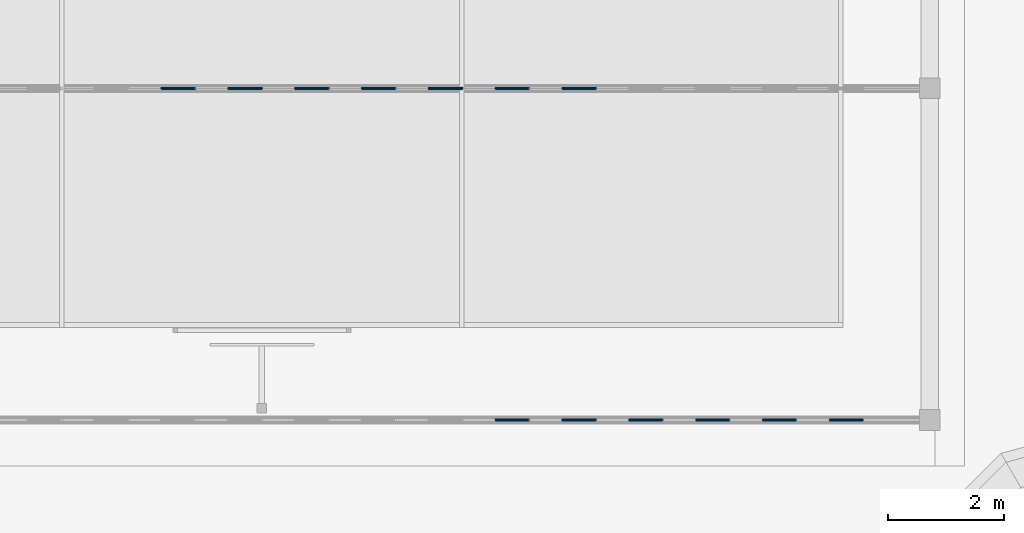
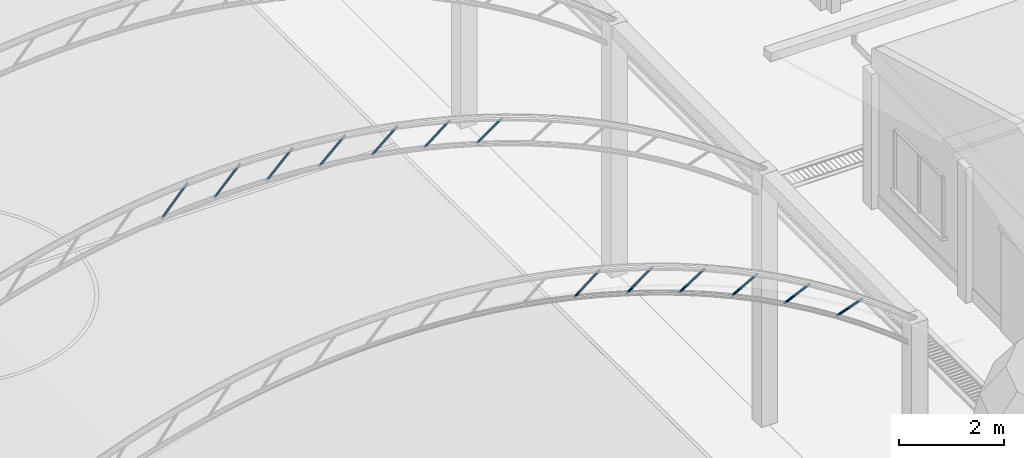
# One storey, part 25 of 166: 13 beams.
"""IFC2X3 building model written with IfcOpenShell, lengths in metres."""

from ifc_helpers import new_model, si_unit, origin, origin_with_axes, place, context, subcontext, project, spatial, faceted_brep, element, save


model = new_model("IFC2X3")

# Units and contexts
model_context = context("Model", 3, precision=1e-05, world=origin_with_axes())
body_context = subcontext(model_context, "Body", "Model", "MODEL_VIEW")
ifc_project = project(units=[si_unit("LENGTHUNIT", "METRE"), si_unit("AREAUNIT", "SQUARE_METRE"), si_unit("VOLUMEUNIT", "CUBIC_METRE"), si_unit("PLANEANGLEUNIT", "RADIAN")], contexts=[model_context])

# Site, building, storey
site_placement = place(None, origin_with_axes())
site = spatial("IfcSite", under=ifc_project, at=site_placement, Name="Predio Los Mangos - Morales, San Martín", CompositionType="ELEMENT")
building_placement = place(site_placement, origin())
building = spatial("IfcBuilding", under=site, at=building_placement, Name="Hogar de Refugio Temporal", CompositionType="ELEMENT")
storey_placement = place(building_placement, origin())
storey = spatial("IfcBuildingStorey", under=building, at=storey_placement, Name="NIVEL 1 (NPT +0.00)", CompositionType="ELEMENT", Elevation=0.0)

# Beams
beam_1_placement = place(storey_placement, origin())
element("IfcBeam", 1, at=beam_1_placement, inside=storey, Name="diag", ObjectType="Viga", context=body_context, shape_type="Brep", body=[
    faceted_brep([(19.0847, 92.6217, 9.0995), (19.6622, 92.6217, 9.5562), (19.67, 92.625, 9.5463), (19.0925, 92.625, 9.0897), (19.0791, 92.6125, 9.1067), (19.6566, 92.6125, 9.5633), (19.077, 92.6, 9.1093), (19.6545, 92.6, 9.566), (19.0791, 92.5875, 9.1067), (19.6566, 92.5875, 9.5633), (19.0847, 92.5783, 9.0995), (19.6622, 92.5783, 9.5562), (19.0925, 92.575, 9.0897), (19.67, 92.575, 9.5463), (19.1003, 92.5783, 9.0799), (19.6778, 92.5783, 9.5365), (19.1059, 92.5875, 9.0727), (19.6834, 92.5875, 9.5294), (19.108, 92.6, 9.0701), (19.6855, 92.6, 9.5267), (19.1059, 92.6125, 9.0727), (19.6834, 92.6125, 9.5294), (19.1003, 92.6217, 9.0799), (19.6778, 92.6217, 9.5365), (19.0912, 92.6037, 9.0914), (19.0925, 92.6043, 9.0897), (19.67, 92.6043, 9.5463), (19.6687, 92.6037, 9.548), (19.0902, 92.6021, 9.0926), (19.6677, 92.6021, 9.5493), (19.0898, 92.6, 9.0931), (19.6673, 92.6, 9.5497), (19.0902, 92.5979, 9.0926), (19.6677, 92.5979, 9.5493), (19.0912, 92.5963, 9.0914), (19.6687, 92.5963, 9.548), (19.0925, 92.5957, 9.0897), (19.67, 92.5957, 9.5463), (19.0938, 92.5963, 9.088), (19.6713, 92.5963, 9.5447), (19.0948, 92.5979, 9.0868), (19.6723, 92.5979, 9.5434), (19.0952, 92.6, 9.0863), (19.6727, 92.6, 9.543), (19.0948, 92.6021, 9.0868), (19.6723, 92.6021, 9.5434), (19.0938, 92.6037, 9.088), (19.6713, 92.6037, 9.5447)], [[[0, 1, 2, 3]], [[4, 5, 1, 0]], [[6, 7, 5, 4]], [[8, 9, 7, 6]], [[10, 11, 9, 8]], [[12, 13, 11, 10]], [[14, 15, 13, 12]], [[16, 17, 15, 14]], [[18, 19, 17, 16]], [[20, 21, 19, 18]], [[22, 23, 21, 20]], [[3, 2, 23, 22]], [[24, 25, 26, 27]], [[28, 24, 27, 29]], [[30, 28, 29, 31]], [[32, 30, 31, 33]], [[34, 32, 33, 35]], [[36, 34, 35, 37]], [[38, 36, 37, 39]], [[40, 38, 39, 41]], [[42, 40, 41, 43]], [[44, 42, 43, 45]], [[46, 44, 45, 47]], [[25, 46, 47, 26]], [[15, 17, 41, 39]], [[2, 1, 27, 26]], [[8, 6, 30, 32]], [[18, 16, 40, 42]], [[11, 13, 37, 35]], [[21, 23, 47, 45]], [[4, 0, 24, 28]], [[14, 12, 36, 38]], [[3, 22, 46, 25]], [[7, 9, 33, 31]], [[17, 19, 43, 41]], [[23, 2, 26, 47]], [[10, 8, 32, 34]], [[20, 18, 42, 44]], [[1, 5, 29, 27]], [[13, 15, 39, 37]], [[6, 4, 28, 30]], [[16, 14, 38, 40]], [[0, 3, 25, 24]], [[9, 11, 35, 33]], [[19, 21, 45, 43]], [[12, 10, 34, 36]], [[22, 20, 44, 46]], [[5, 7, 31, 29]]]),
])
beam_2_placement = place(storey_placement, origin())
element("IfcBeam", 2, at=beam_2_placement, inside=storey, Name="diag", ObjectType="Viga", context=body_context, shape_type="Brep", body=[
    faceted_brep([(20.2402, 92.6217, 8.7926), (20.8177, 92.6217, 9.2075), (20.825, 92.625, 9.1974), (20.2475, 92.625, 8.7824), (20.2349, 92.6125, 8.8), (20.8124, 92.6125, 9.215), (20.2329, 92.6, 8.8027), (20.8104, 92.6, 9.2177), (20.2349, 92.5875, 8.8), (20.8124, 92.5875, 9.215), (20.2402, 92.5783, 8.7926), (20.8177, 92.5783, 9.2075), (20.2475, 92.575, 8.7824), (20.825, 92.575, 9.1974), (20.2548, 92.5783, 8.7723), (20.8323, 92.5783, 9.1872), (20.2601, 92.5875, 8.7649), (20.8376, 92.5875, 9.1798), (20.2621, 92.6, 8.7621), (20.8396, 92.6, 9.1771), (20.2601, 92.6125, 8.7649), (20.8376, 92.6125, 9.1798), (20.2548, 92.6217, 8.7723), (20.8323, 92.6217, 9.1872), (20.2462, 92.6037, 8.7842), (20.2475, 92.6043, 8.7824), (20.825, 92.6043, 9.1974), (20.8237, 92.6037, 9.1991), (20.2453, 92.6021, 8.7855), (20.8228, 92.6021, 9.2004), (20.245, 92.6, 8.7859), (20.8225, 92.6, 9.2009), (20.2453, 92.5979, 8.7855), (20.8228, 92.5979, 9.2004), (20.2462, 92.5963, 8.7842), (20.8237, 92.5963, 9.1991), (20.2475, 92.5957, 8.7824), (20.825, 92.5957, 9.1974), (20.2488, 92.5963, 8.7807), (20.8263, 92.5963, 9.1957), (20.2497, 92.5979, 8.7794), (20.8272, 92.5979, 9.1944), (20.25, 92.6, 8.779), (20.8275, 92.6, 9.1939), (20.2497, 92.6021, 8.7794), (20.8272, 92.6021, 9.1944), (20.2488, 92.6037, 8.7807), (20.8263, 92.6037, 9.1957)], [[[0, 1, 2, 3]], [[4, 5, 1, 0]], [[6, 7, 5, 4]], [[8, 9, 7, 6]], [[10, 11, 9, 8]], [[12, 13, 11, 10]], [[14, 15, 13, 12]], [[16, 17, 15, 14]], [[18, 19, 17, 16]], [[20, 21, 19, 18]], [[22, 23, 21, 20]], [[3, 2, 23, 22]], [[24, 25, 26, 27]], [[28, 24, 27, 29]], [[30, 28, 29, 31]], [[32, 30, 31, 33]], [[34, 32, 33, 35]], [[36, 34, 35, 37]], [[38, 36, 37, 39]], [[40, 38, 39, 41]], [[42, 40, 41, 43]], [[44, 42, 43, 45]], [[46, 44, 45, 47]], [[25, 46, 47, 26]], [[15, 17, 41, 39]], [[2, 1, 27, 26]], [[8, 6, 30, 32]], [[18, 16, 40, 42]], [[11, 13, 37, 35]], [[21, 23, 47, 45]], [[4, 0, 24, 28]], [[14, 12, 36, 38]], [[3, 22, 46, 25]], [[7, 9, 33, 31]], [[17, 19, 43, 41]], [[23, 2, 26, 47]], [[10, 8, 32, 34]], [[20, 18, 42, 44]], [[1, 5, 29, 27]], [[13, 15, 39, 37]], [[6, 4, 28, 30]], [[16, 14, 38, 40]], [[0, 3, 25, 24]], [[9, 11, 35, 33]], [[19, 21, 45, 43]], [[12, 10, 34, 36]], [[22, 20, 44, 46]], [[5, 7, 31, 29]]]),
])
beam_3_placement = place(storey_placement, origin())
element("IfcBeam", 3, at=beam_3_placement, inside=storey, Name="diag", ObjectType="Viga", context=body_context, shape_type="Brep", body=[
    faceted_brep([(21.3958, 92.6217, 8.401), (21.9733, 92.6217, 8.7715), (21.98, 92.625, 8.7609), (21.4025, 92.625, 8.3905), (21.3908, 92.6125, 8.4087), (21.9683, 92.6125, 8.7792), (21.389, 92.6, 8.4115), (21.9665, 92.6, 8.782), (21.3908, 92.5875, 8.4087), (21.9683, 92.5875, 8.7792), (21.3958, 92.5783, 8.401), (21.9733, 92.5783, 8.7715), (21.4025, 92.575, 8.3905), (21.98, 92.575, 8.7609), (21.4092, 92.5783, 8.38), (21.9867, 92.5783, 8.7504), (21.4142, 92.5875, 8.3723), (21.9917, 92.5875, 8.7427), (21.416, 92.6, 8.3695), (21.9935, 92.6, 8.7399), (21.4142, 92.6125, 8.3723), (21.9917, 92.6125, 8.7427), (21.4092, 92.6217, 8.38), (21.9867, 92.6217, 8.7504), (21.4013, 92.6037, 8.3923), (21.4025, 92.6043, 8.3905), (21.98, 92.6043, 8.7609), (21.9788, 92.6037, 8.7627), (21.4005, 92.6021, 8.3936), (21.978, 92.6021, 8.7641), (21.4002, 92.6, 8.3941), (21.9777, 92.6, 8.7645), (21.4005, 92.5979, 8.3936), (21.978, 92.5979, 8.7641), (21.4013, 92.5963, 8.3923), (21.9788, 92.5963, 8.7627), (21.4025, 92.5957, 8.3905), (21.98, 92.5957, 8.7609), (21.4037, 92.5963, 8.3887), (21.9812, 92.5963, 8.7591), (21.4045, 92.5979, 8.3874), (21.982, 92.5979, 8.7578), (21.4048, 92.6, 8.3869), (21.9823, 92.6, 8.7573), (21.4045, 92.6021, 8.3874), (21.982, 92.6021, 8.7578), (21.4037, 92.6037, 8.3887), (21.9812, 92.6037, 8.7591)], [[[0, 1, 2, 3]], [[4, 5, 1, 0]], [[6, 7, 5, 4]], [[8, 9, 7, 6]], [[10, 11, 9, 8]], [[12, 13, 11, 10]], [[14, 15, 13, 12]], [[16, 17, 15, 14]], [[18, 19, 17, 16]], [[20, 21, 19, 18]], [[22, 23, 21, 20]], [[3, 2, 23, 22]], [[24, 25, 26, 27]], [[28, 24, 27, 29]], [[30, 28, 29, 31]], [[32, 30, 31, 33]], [[34, 32, 33, 35]], [[36, 34, 35, 37]], [[38, 36, 37, 39]], [[40, 38, 39, 41]], [[42, 40, 41, 43]], [[44, 42, 43, 45]], [[46, 44, 45, 47]], [[25, 46, 47, 26]], [[15, 17, 41, 39]], [[2, 1, 27, 26]], [[8, 6, 30, 32]], [[18, 16, 40, 42]], [[11, 13, 37, 35]], [[21, 23, 47, 45]], [[4, 0, 24, 28]], [[14, 12, 36, 38]], [[3, 22, 46, 25]], [[7, 9, 33, 31]], [[17, 19, 43, 41]], [[23, 2, 26, 47]], [[10, 8, 32, 34]], [[20, 18, 42, 44]], [[1, 5, 29, 27]], [[13, 15, 39, 37]], [[6, 4, 28, 30]], [[16, 14, 38, 40]], [[0, 3, 25, 24]], [[9, 11, 35, 33]], [[19, 21, 45, 43]], [[12, 10, 34, 36]], [[22, 20, 44, 46]], [[5, 7, 31, 29]]]),
])
beam_4_placement = place(storey_placement, origin())
element("IfcBeam", 4, at=beam_4_placement, inside=storey, Name="diag", ObjectType="Viga", context=body_context, shape_type="Brep", body=[
    faceted_brep([(22.5514, 92.6217, 7.9187), (23.1289, 92.6217, 8.2407), (23.135, 92.625, 8.2298), (22.5575, 92.625, 7.9077), (22.547, 92.6125, 7.9267), (23.1245, 92.6125, 8.2487), (22.5453, 92.6, 7.9296), (23.1228, 92.6, 8.2517), (22.547, 92.5875, 7.9267), (23.1245, 92.5875, 8.2487), (22.5514, 92.5783, 7.9187), (23.1289, 92.5783, 8.2407), (22.5575, 92.575, 7.9077), (23.135, 92.575, 8.2298), (22.5636, 92.5783, 7.8968), (23.1411, 92.5783, 8.2189), (22.568, 92.5875, 7.8888), (23.1455, 92.5875, 8.2109), (22.5697, 92.6, 7.8859), (23.1472, 92.6, 8.208), (22.568, 92.6125, 7.8888), (23.1455, 92.6125, 8.2109), (22.5636, 92.6217, 7.8968), (23.1411, 92.6217, 8.2189), (22.5565, 92.6037, 7.9096), (22.5575, 92.6043, 7.9077), (23.135, 92.6043, 8.2298), (23.134, 92.6037, 8.2317), (22.5557, 92.6021, 7.911), (23.1332, 92.6021, 8.2331), (22.5554, 92.6, 7.9115), (23.1329, 92.6, 8.2336), (22.5557, 92.5979, 7.911), (23.1332, 92.5979, 8.2331), (22.5565, 92.5963, 7.9096), (23.134, 92.5963, 8.2317), (22.5575, 92.5957, 7.9077), (23.135, 92.5957, 8.2298), (22.5585, 92.5963, 7.9059), (23.136, 92.5963, 8.228), (22.5593, 92.5979, 7.9045), (23.1368, 92.5979, 8.2266), (22.5596, 92.6, 7.904), (23.1371, 92.6, 8.2261), (22.5593, 92.6021, 7.9045), (23.1368, 92.6021, 8.2266), (22.5585, 92.6037, 7.9059), (23.136, 92.6037, 8.228)], [[[0, 1, 2, 3]], [[4, 5, 1, 0]], [[6, 7, 5, 4]], [[8, 9, 7, 6]], [[10, 11, 9, 8]], [[12, 13, 11, 10]], [[14, 15, 13, 12]], [[16, 17, 15, 14]], [[18, 19, 17, 16]], [[20, 21, 19, 18]], [[22, 23, 21, 20]], [[3, 2, 23, 22]], [[24, 25, 26, 27]], [[28, 24, 27, 29]], [[30, 28, 29, 31]], [[32, 30, 31, 33]], [[34, 32, 33, 35]], [[36, 34, 35, 37]], [[38, 36, 37, 39]], [[40, 38, 39, 41]], [[42, 40, 41, 43]], [[44, 42, 43, 45]], [[46, 44, 45, 47]], [[25, 46, 47, 26]], [[15, 17, 41, 39]], [[2, 1, 27, 26]], [[8, 6, 30, 32]], [[18, 16, 40, 42]], [[11, 13, 37, 35]], [[21, 23, 47, 45]], [[4, 0, 24, 28]], [[14, 12, 36, 38]], [[3, 22, 46, 25]], [[7, 9, 33, 31]], [[17, 19, 43, 41]], [[23, 2, 26, 47]], [[10, 8, 32, 34]], [[20, 18, 42, 44]], [[1, 5, 29, 27]], [[13, 15, 39, 37]], [[6, 4, 28, 30]], [[16, 14, 38, 40]], [[0, 3, 25, 24]], [[9, 11, 35, 33]], [[19, 21, 45, 43]], [[12, 10, 34, 36]], [[22, 20, 44, 46]], [[5, 7, 31, 29]]]),
])
beam_5_placement = place(storey_placement, origin())
element("IfcBeam", 5, at=beam_5_placement, inside=storey, Name="diag", ObjectType="Viga", context=body_context, shape_type="Brep", body=[
    faceted_brep([(23.7072, 92.6217, 7.3372), (24.2847, 92.6217, 7.6056), (24.29, 92.625, 7.5943), (23.7125, 92.625, 7.3259), (23.7034, 92.6125, 7.3455), (24.2809, 92.6125, 7.6139), (23.702, 92.6, 7.3485), (24.2795, 92.6, 7.617), (23.7034, 92.5875, 7.3455), (24.2809, 92.5875, 7.6139), (23.7072, 92.5783, 7.3372), (24.2847, 92.5783, 7.6056), (23.7125, 92.575, 7.3259), (24.29, 92.575, 7.5943), (23.7178, 92.5783, 7.3145), (24.2953, 92.5783, 7.583), (23.7216, 92.5875, 7.3062), (24.2991, 92.5875, 7.5747), (23.723, 92.6, 7.3032), (24.3005, 92.6, 7.5716), (23.7216, 92.6125, 7.3062), (24.2991, 92.6125, 7.5747), (23.7178, 92.6217, 7.3145), (24.2953, 92.6217, 7.583), (23.7116, 92.6037, 7.3278), (23.7125, 92.6043, 7.3259), (24.29, 92.6043, 7.5943), (24.2891, 92.6037, 7.5963), (23.7109, 92.6021, 7.3292), (24.2884, 92.6021, 7.5977), (23.7107, 92.6, 7.3298), (24.2882, 92.6, 7.5982), (23.7109, 92.5979, 7.3292), (24.2884, 92.5979, 7.5977), (23.7116, 92.5963, 7.3278), (24.2891, 92.5963, 7.5963), (23.7125, 92.5957, 7.3259), (24.29, 92.5957, 7.5943), (23.7134, 92.5963, 7.3239), (24.2909, 92.5963, 7.5924), (23.7141, 92.5979, 7.3225), (24.2916, 92.5979, 7.5909), (23.7143, 92.6, 7.322), (24.2918, 92.6, 7.5904), (23.7141, 92.6021, 7.3225), (24.2916, 92.6021, 7.5909), (23.7134, 92.6037, 7.3239), (24.2909, 92.6037, 7.5924)], [[[0, 1, 2, 3]], [[4, 5, 1, 0]], [[6, 7, 5, 4]], [[8, 9, 7, 6]], [[10, 11, 9, 8]], [[12, 13, 11, 10]], [[14, 15, 13, 12]], [[16, 17, 15, 14]], [[18, 19, 17, 16]], [[20, 21, 19, 18]], [[22, 23, 21, 20]], [[3, 2, 23, 22]], [[24, 25, 26, 27]], [[28, 24, 27, 29]], [[30, 28, 29, 31]], [[32, 30, 31, 33]], [[34, 32, 33, 35]], [[36, 34, 35, 37]], [[38, 36, 37, 39]], [[40, 38, 39, 41]], [[42, 40, 41, 43]], [[44, 42, 43, 45]], [[46, 44, 45, 47]], [[25, 46, 47, 26]], [[15, 17, 41, 39]], [[2, 1, 27, 26]], [[8, 6, 30, 32]], [[18, 16, 40, 42]], [[11, 13, 37, 35]], [[21, 23, 47, 45]], [[4, 0, 24, 28]], [[14, 12, 36, 38]], [[3, 22, 46, 25]], [[7, 9, 33, 31]], [[17, 19, 43, 41]], [[23, 2, 26, 47]], [[10, 8, 32, 34]], [[20, 18, 42, 44]], [[1, 5, 29, 27]], [[13, 15, 39, 37]], [[6, 4, 28, 30]], [[16, 14, 38, 40]], [[0, 3, 25, 24]], [[9, 11, 35, 33]], [[19, 21, 45, 43]], [[12, 10, 34, 36]], [[22, 20, 44, 46]], [[5, 7, 31, 29]]]),
])
beam_6_placement = place(storey_placement, origin())
element("IfcBeam", 6, at=beam_6_placement, inside=storey, Name="diag", ObjectType="Viga", context=body_context, shape_type="Brep", body=[
    faceted_brep([(24.8633, 92.6217, 6.6451), (25.4408, 92.6217, 6.8526), (25.445, 92.625, 6.8408), (24.8675, 92.625, 6.6333), (24.8602, 92.6125, 6.6537), (25.4377, 92.6125, 6.8612), (24.859, 92.6, 6.6569), (25.4365, 92.6, 6.8643), (24.8602, 92.5875, 6.6537), (25.4377, 92.5875, 6.8612), (24.8633, 92.5783, 6.6451), (25.4408, 92.5783, 6.8526), (24.8675, 92.575, 6.6333), (25.445, 92.575, 6.8408), (24.8717, 92.5783, 6.6216), (25.4492, 92.5783, 6.829), (24.8748, 92.5875, 6.613), (25.4523, 92.5875, 6.8204), (24.876, 92.6, 6.6098), (25.4535, 92.6, 6.8173), (24.8748, 92.6125, 6.613), (25.4523, 92.6125, 6.8204), (24.8717, 92.6217, 6.6216), (25.4492, 92.6217, 6.829), (24.8668, 92.6037, 6.6354), (24.8675, 92.6043, 6.6333), (25.445, 92.6043, 6.8408), (25.4443, 92.6037, 6.8428), (24.8662, 92.6021, 6.6368), (25.4437, 92.6021, 6.8443), (24.866, 92.6, 6.6374), (25.4435, 92.6, 6.8449), (24.8662, 92.5979, 6.6368), (25.4437, 92.5979, 6.8443), (24.8668, 92.5963, 6.6354), (25.4443, 92.5963, 6.8428), (24.8675, 92.5957, 6.6333), (25.445, 92.5957, 6.8408), (24.8682, 92.5963, 6.6313), (25.4457, 92.5963, 6.8388), (24.8688, 92.5979, 6.6298), (25.4463, 92.5979, 6.8373), (24.869, 92.6, 6.6293), (25.4465, 92.6, 6.8368), (24.8688, 92.6021, 6.6298), (25.4463, 92.6021, 6.8373), (24.8682, 92.6037, 6.6313), (25.4457, 92.6037, 6.8388)], [[[0, 1, 2, 3]], [[4, 5, 1, 0]], [[6, 7, 5, 4]], [[8, 9, 7, 6]], [[10, 11, 9, 8]], [[12, 13, 11, 10]], [[14, 15, 13, 12]], [[16, 17, 15, 14]], [[18, 19, 17, 16]], [[20, 21, 19, 18]], [[22, 23, 21, 20]], [[3, 2, 23, 22]], [[24, 25, 26, 27]], [[28, 24, 27, 29]], [[30, 28, 29, 31]], [[32, 30, 31, 33]], [[34, 32, 33, 35]], [[36, 34, 35, 37]], [[38, 36, 37, 39]], [[40, 38, 39, 41]], [[42, 40, 41, 43]], [[44, 42, 43, 45]], [[46, 44, 45, 47]], [[25, 46, 47, 26]], [[15, 17, 41, 39]], [[2, 1, 27, 26]], [[8, 6, 30, 32]], [[18, 16, 40, 42]], [[11, 13, 37, 35]], [[21, 23, 47, 45]], [[4, 0, 24, 28]], [[14, 12, 36, 38]], [[3, 22, 46, 25]], [[7, 9, 33, 31]], [[17, 19, 43, 41]], [[23, 2, 26, 47]], [[10, 8, 32, 34]], [[20, 18, 42, 44]], [[1, 5, 29, 27]], [[13, 15, 39, 37]], [[6, 4, 28, 30]], [[16, 14, 38, 40]], [[0, 3, 25, 24]], [[9, 11, 35, 33]], [[19, 21, 45, 43]], [[12, 10, 34, 36]], [[22, 20, 44, 46]], [[5, 7, 31, 29]]]),
])
beam_7_placement = place(storey_placement, origin())
element("IfcBeam", 7, at=beam_7_placement, inside=storey, Name="diag", ObjectType="Viga", context=body_context, shape_type="Brep", body=[
    faceted_brep([(13.3082, 98.355, 9.4747), (13.8857, 98.355, 10.1212), (13.895, 98.3583, 10.1129), (13.3175, 98.3583, 9.4663), (13.3014, 98.3458, 9.4808), (13.8789, 98.3458, 10.1273), (13.2989, 98.3333, 9.483), (13.8764, 98.3333, 10.1295), (13.3014, 98.3208, 9.4808), (13.8789, 98.3208, 10.1273), (13.3082, 98.3117, 9.4747), (13.8857, 98.3117, 10.1212), (13.3175, 98.3083, 9.4663), (13.895, 98.3083, 10.1129), (13.3268, 98.3117, 9.458), (13.9043, 98.3117, 10.1045), (13.3336, 98.3208, 9.4519), (13.9111, 98.3208, 10.0984), (13.3361, 98.3333, 9.4497), (13.9136, 98.3333, 10.0962), (13.3336, 98.3458, 9.4519), (13.9111, 98.3458, 10.0984), (13.3268, 98.355, 9.458), (13.9043, 98.355, 10.1045), (13.3159, 98.3371, 9.4678), (13.3175, 98.3376, 9.4663), (13.895, 98.3376, 10.1129), (13.8934, 98.3371, 10.1143), (13.3147, 98.3355, 9.4688), (13.8922, 98.3355, 10.1153), (13.3143, 98.3333, 9.4692), (13.8918, 98.3333, 10.1157), (13.3147, 98.3312, 9.4688), (13.8922, 98.3312, 10.1153), (13.3159, 98.3296, 9.4678), (13.8934, 98.3296, 10.1143), (13.3175, 98.329, 9.4663), (13.895, 98.329, 10.1129), (13.3191, 98.3296, 9.4649), (13.8966, 98.3296, 10.1114), (13.3203, 98.3312, 9.4639), (13.8978, 98.3312, 10.1104), (13.3207, 98.3333, 9.4635), (13.8982, 98.3333, 10.11), (13.3203, 98.3355, 9.4639), (13.8978, 98.3355, 10.1104), (13.3191, 98.3371, 9.4649), (13.8966, 98.3371, 10.1114)], [[[0, 1, 2, 3]], [[4, 5, 1, 0]], [[6, 7, 5, 4]], [[8, 9, 7, 6]], [[10, 11, 9, 8]], [[12, 13, 11, 10]], [[14, 15, 13, 12]], [[16, 17, 15, 14]], [[18, 19, 17, 16]], [[20, 21, 19, 18]], [[22, 23, 21, 20]], [[3, 2, 23, 22]], [[24, 25, 26, 27]], [[28, 24, 27, 29]], [[30, 28, 29, 31]], [[32, 30, 31, 33]], [[34, 32, 33, 35]], [[36, 34, 35, 37]], [[38, 36, 37, 39]], [[40, 38, 39, 41]], [[42, 40, 41, 43]], [[44, 42, 43, 45]], [[46, 44, 45, 47]], [[25, 46, 47, 26]], [[7, 9, 33, 31]], [[17, 19, 43, 41]], [[23, 2, 26, 47]], [[10, 8, 32, 34]], [[20, 18, 42, 44]], [[1, 5, 29, 27]], [[13, 15, 39, 37]], [[6, 4, 28, 30]], [[16, 14, 38, 40]], [[0, 3, 25, 24]], [[9, 11, 35, 33]], [[19, 21, 45, 43]], [[12, 10, 34, 36]], [[22, 20, 44, 46]], [[5, 7, 31, 29]], [[15, 17, 41, 39]], [[2, 1, 27, 26]], [[8, 6, 30, 32]], [[18, 16, 40, 42]], [[11, 13, 37, 35]], [[21, 23, 47, 45]], [[4, 0, 24, 28]], [[14, 12, 36, 38]], [[3, 22, 46, 25]]]),
])
beam_8_placement = place(storey_placement, origin())
element("IfcBeam", 8, at=beam_8_placement, inside=storey, Name="diag", ObjectType="Viga", context=body_context, shape_type="Brep", body=[
    faceted_brep([(14.4634, 98.355, 9.5493), (15.0409, 98.355, 10.1586), (15.05, 98.3583, 10.15), (14.4725, 98.3583, 9.5407), (14.4568, 98.3458, 9.5556), (15.0343, 98.3458, 10.1649), (14.4544, 98.3333, 9.5579), (15.0319, 98.3333, 10.1672), (14.4568, 98.3208, 9.5556), (15.0343, 98.3208, 10.1649), (14.4634, 98.3117, 9.5493), (15.0409, 98.3117, 10.1586), (14.4725, 98.3083, 9.5407), (15.05, 98.3083, 10.15), (14.4816, 98.3117, 9.5321), (15.0591, 98.3117, 10.1414), (14.4882, 98.3208, 9.5258), (15.0657, 98.3208, 10.1351), (14.4906, 98.3333, 9.5235), (15.0681, 98.3333, 10.1328), (14.4882, 98.3458, 9.5258), (15.0657, 98.3458, 10.1351), (14.4816, 98.355, 9.5321), (15.0591, 98.355, 10.1414), (14.4709, 98.3371, 9.5422), (14.4725, 98.3376, 9.5407), (15.05, 98.3376, 10.15), (15.0484, 98.3371, 10.1515), (14.4698, 98.3355, 9.5433), (15.0473, 98.3355, 10.1526), (14.4694, 98.3333, 9.5437), (15.0469, 98.3333, 10.153), (14.4698, 98.3312, 9.5433), (15.0473, 98.3312, 10.1526), (14.4709, 98.3296, 9.5422), (15.0484, 98.3296, 10.1515), (14.4725, 98.329, 9.5407), (15.05, 98.329, 10.15), (14.4741, 98.3296, 9.5392), (15.0516, 98.3296, 10.1485), (14.4752, 98.3312, 9.5382), (15.0527, 98.3312, 10.1474), (14.4756, 98.3333, 9.5378), (15.0531, 98.3333, 10.147), (14.4752, 98.3355, 9.5382), (15.0527, 98.3355, 10.1474), (14.4741, 98.3371, 9.5392), (15.0516, 98.3371, 10.1485)], [[[0, 1, 2, 3]], [[4, 5, 1, 0]], [[6, 7, 5, 4]], [[8, 9, 7, 6]], [[10, 11, 9, 8]], [[12, 13, 11, 10]], [[14, 15, 13, 12]], [[16, 17, 15, 14]], [[18, 19, 17, 16]], [[20, 21, 19, 18]], [[22, 23, 21, 20]], [[3, 2, 23, 22]], [[24, 25, 26, 27]], [[28, 24, 27, 29]], [[30, 28, 29, 31]], [[32, 30, 31, 33]], [[34, 32, 33, 35]], [[36, 34, 35, 37]], [[38, 36, 37, 39]], [[40, 38, 39, 41]], [[42, 40, 41, 43]], [[44, 42, 43, 45]], [[46, 44, 45, 47]], [[25, 46, 47, 26]], [[6, 4, 28, 30]], [[16, 14, 38, 40]], [[0, 3, 25, 24]], [[9, 11, 35, 33]], [[19, 21, 45, 43]], [[12, 10, 34, 36]], [[22, 20, 44, 46]], [[5, 7, 31, 29]], [[15, 17, 41, 39]], [[2, 1, 27, 26]], [[8, 6, 30, 32]], [[18, 16, 40, 42]], [[11, 13, 37, 35]], [[21, 23, 47, 45]], [[4, 0, 24, 28]], [[14, 12, 36, 38]], [[3, 22, 46, 25]], [[7, 9, 33, 31]], [[17, 19, 43, 41]], [[23, 2, 26, 47]], [[10, 8, 32, 34]], [[20, 18, 42, 44]], [[1, 5, 29, 27]], [[13, 15, 39, 37]]]),
])
beam_9_placement = place(storey_placement, origin())
element("IfcBeam", 9, at=beam_9_placement, inside=storey, Name="diag", ObjectType="Viga", context=body_context, shape_type="Brep", body=[
    faceted_brep([(15.6187, 98.355, 9.5496), (16.1962, 98.355, 10.1217), (16.205, 98.3583, 10.1129), (15.6275, 98.3583, 9.5407), (15.6123, 98.3458, 9.5561), (16.1898, 98.3458, 10.1282), (15.6099, 98.3333, 9.5585), (16.1874, 98.3333, 10.1306), (15.6123, 98.3208, 9.5561), (16.1898, 98.3208, 10.1282), (15.6187, 98.3117, 9.5496), (16.1962, 98.3117, 10.1217), (15.6275, 98.3083, 9.5407), (16.205, 98.3083, 10.1129), (15.6363, 98.3117, 9.5318), (16.2138, 98.3117, 10.104), (15.6427, 98.3208, 9.5253), (16.2202, 98.3208, 10.0975), (15.6451, 98.3333, 9.523), (16.2226, 98.3333, 10.0951), (15.6427, 98.3458, 9.5253), (16.2202, 98.3458, 10.0975), (15.6363, 98.355, 9.5318), (16.2138, 98.355, 10.104), (15.626, 98.3371, 9.5422), (15.6275, 98.3376, 9.5407), (16.205, 98.3376, 10.1129), (16.2035, 98.3371, 10.1144), (15.6249, 98.3355, 9.5434), (16.2024, 98.3355, 10.1155), (15.6245, 98.3333, 9.5438), (16.202, 98.3333, 10.1159), (15.6249, 98.3312, 9.5434), (16.2024, 98.3312, 10.1155), (15.626, 98.3296, 9.5422), (16.2035, 98.3296, 10.1144), (15.6275, 98.329, 9.5407), (16.205, 98.329, 10.1129), (15.629, 98.3296, 9.5392), (16.2065, 98.3296, 10.1113), (15.6301, 98.3312, 9.5381), (16.2076, 98.3312, 10.1102), (15.6305, 98.3333, 9.5377), (16.208, 98.3333, 10.1098), (15.6301, 98.3355, 9.5381), (16.2076, 98.3355, 10.1102), (15.629, 98.3371, 9.5392), (16.2065, 98.3371, 10.1113)], [[[0, 1, 2, 3]], [[4, 5, 1, 0]], [[6, 7, 5, 4]], [[8, 9, 7, 6]], [[10, 11, 9, 8]], [[12, 13, 11, 10]], [[14, 15, 13, 12]], [[16, 17, 15, 14]], [[18, 19, 17, 16]], [[20, 21, 19, 18]], [[22, 23, 21, 20]], [[3, 2, 23, 22]], [[24, 25, 26, 27]], [[28, 24, 27, 29]], [[30, 28, 29, 31]], [[32, 30, 31, 33]], [[34, 32, 33, 35]], [[36, 34, 35, 37]], [[38, 36, 37, 39]], [[40, 38, 39, 41]], [[42, 40, 41, 43]], [[44, 42, 43, 45]], [[46, 44, 45, 47]], [[25, 46, 47, 26]], [[7, 9, 33, 31]], [[17, 19, 43, 41]], [[23, 2, 26, 47]], [[10, 8, 32, 34]], [[20, 18, 42, 44]], [[1, 5, 29, 27]], [[13, 15, 39, 37]], [[6, 4, 28, 30]], [[16, 14, 38, 40]], [[0, 3, 25, 24]], [[9, 11, 35, 33]], [[19, 21, 45, 43]], [[12, 10, 34, 36]], [[22, 20, 44, 46]], [[5, 7, 31, 29]], [[15, 17, 41, 39]], [[2, 1, 27, 26]], [[8, 6, 30, 32]], [[18, 16, 40, 42]], [[11, 13, 37, 35]], [[21, 23, 47, 45]], [[4, 0, 24, 28]], [[14, 12, 36, 38]], [[3, 22, 46, 25]]]),
])
beam_10_placement = place(storey_placement, origin())
element("IfcBeam", 10, at=beam_10_placement, inside=storey, Name="diag", ObjectType="Viga", context=body_context, shape_type="Brep", body=[
    faceted_brep([(16.774, 98.355, 9.4755), (17.3515, 98.355, 10.0102), (17.36, 98.3583, 10.001), (16.7825, 98.3583, 9.4663), (16.7678, 98.3458, 9.4822), (17.3453, 98.3458, 10.0169), (16.7655, 98.3333, 9.4847), (17.343, 98.3333, 10.0193), (16.7678, 98.3208, 9.4822), (17.3453, 98.3208, 10.0169), (16.774, 98.3117, 9.4755), (17.3515, 98.3117, 10.0102), (16.7825, 98.3083, 9.4663), (17.36, 98.3083, 10.001), (16.791, 98.3117, 9.4572), (17.3685, 98.3117, 9.9918), (16.7972, 98.3208, 9.4505), (17.3747, 98.3208, 9.9851), (16.7995, 98.3333, 9.448), (17.377, 98.3333, 9.9827), (16.7972, 98.3458, 9.4505), (17.3747, 98.3458, 9.9851), (16.791, 98.355, 9.4572), (17.3685, 98.355, 9.9918), (16.781, 98.3371, 9.4679), (16.7825, 98.3376, 9.4663), (17.36, 98.3376, 10.001), (17.3585, 98.3371, 10.0026), (16.78, 98.3355, 9.4691), (17.3575, 98.3355, 10.0037), (16.7796, 98.3333, 9.4695), (17.3571, 98.3333, 10.0042), (16.78, 98.3312, 9.4691), (17.3575, 98.3312, 10.0037), (16.781, 98.3296, 9.4679), (17.3585, 98.3296, 10.0026), (16.7825, 98.329, 9.4663), (17.36, 98.329, 10.001), (16.784, 98.3296, 9.4648), (17.3615, 98.3296, 9.9994), (16.785, 98.3312, 9.4636), (17.3625, 98.3312, 9.9983), (16.7854, 98.3333, 9.4632), (17.3629, 98.3333, 9.9979), (16.785, 98.3355, 9.4636), (17.3625, 98.3355, 9.9983), (16.784, 98.3371, 9.4648), (17.3615, 98.3371, 9.9994)], [[[0, 1, 2, 3]], [[4, 5, 1, 0]], [[6, 7, 5, 4]], [[8, 9, 7, 6]], [[10, 11, 9, 8]], [[12, 13, 11, 10]], [[14, 15, 13, 12]], [[16, 17, 15, 14]], [[18, 19, 17, 16]], [[20, 21, 19, 18]], [[22, 23, 21, 20]], [[3, 2, 23, 22]], [[24, 25, 26, 27]], [[28, 24, 27, 29]], [[30, 28, 29, 31]], [[32, 30, 31, 33]], [[34, 32, 33, 35]], [[36, 34, 35, 37]], [[38, 36, 37, 39]], [[40, 38, 39, 41]], [[42, 40, 41, 43]], [[44, 42, 43, 45]], [[46, 44, 45, 47]], [[25, 46, 47, 26]], [[6, 4, 28, 30]], [[16, 14, 38, 40]], [[0, 3, 25, 24]], [[9, 11, 35, 33]], [[19, 21, 45, 43]], [[12, 10, 34, 36]], [[22, 20, 44, 46]], [[5, 7, 31, 29]], [[15, 17, 41, 39]], [[2, 1, 27, 26]], [[8, 6, 30, 32]], [[18, 16, 40, 42]], [[11, 13, 37, 35]], [[21, 23, 47, 45]], [[4, 0, 24, 28]], [[14, 12, 36, 38]], [[3, 22, 46, 25]], [[7, 9, 33, 31]], [[17, 19, 43, 41]], [[23, 2, 26, 47]], [[10, 8, 32, 34]], [[20, 18, 42, 44]], [[1, 5, 29, 27]], [[13, 15, 39, 37]]]),
])
beam_11_placement = place(storey_placement, origin())
element("IfcBeam", 11, at=beam_11_placement, inside=storey, Name="diag", ObjectType="Viga", context=body_context, shape_type="Brep", body=[
    faceted_brep([(17.9294, 98.355, 9.3261), (18.5069, 98.355, 9.8225), (18.515, 98.3583, 9.813), (17.9375, 98.3583, 9.3166), (17.9234, 98.3458, 9.3331), (18.5009, 98.3458, 9.8294), (17.9212, 98.3333, 9.3356), (18.4987, 98.3333, 9.8319), (17.9234, 98.3208, 9.3331), (18.5009, 98.3208, 9.8294), (17.9294, 98.3117, 9.3261), (18.5069, 98.3117, 9.8225), (17.9375, 98.3083, 9.3166), (18.515, 98.3083, 9.813), (17.9456, 98.3117, 9.3072), (18.5231, 98.3117, 9.8035), (17.9516, 98.3208, 9.3002), (18.5291, 98.3208, 9.7966), (17.9538, 98.3333, 9.2977), (18.5313, 98.3333, 9.794), (17.9516, 98.3458, 9.3002), (18.5291, 98.3458, 9.7966), (17.9456, 98.355, 9.3072), (18.5231, 98.355, 9.8035), (17.9361, 98.3371, 9.3183), (17.9375, 98.3376, 9.3166), (18.515, 98.3376, 9.813), (18.5136, 98.3371, 9.8146), (17.9351, 98.3355, 9.3195), (18.5126, 98.3355, 9.8158), (17.9347, 98.3333, 9.3199), (18.5122, 98.3333, 9.8162), (17.9351, 98.3312, 9.3195), (18.5126, 98.3312, 9.8158), (17.9361, 98.3296, 9.3183), (18.5136, 98.3296, 9.8146), (17.9375, 98.329, 9.3166), (18.515, 98.329, 9.813), (17.9389, 98.3296, 9.315), (18.5164, 98.3296, 9.8114), (17.9399, 98.3312, 9.3138), (18.5174, 98.3312, 9.8102), (17.9403, 98.3333, 9.3134), (18.5178, 98.3333, 9.8097), (17.9399, 98.3355, 9.3138), (18.5174, 98.3355, 9.8102), (17.9389, 98.3371, 9.315), (18.5164, 98.3371, 9.8114)], [[[0, 1, 2, 3]], [[4, 5, 1, 0]], [[6, 7, 5, 4]], [[8, 9, 7, 6]], [[10, 11, 9, 8]], [[12, 13, 11, 10]], [[14, 15, 13, 12]], [[16, 17, 15, 14]], [[18, 19, 17, 16]], [[20, 21, 19, 18]], [[22, 23, 21, 20]], [[3, 2, 23, 22]], [[24, 25, 26, 27]], [[28, 24, 27, 29]], [[30, 28, 29, 31]], [[32, 30, 31, 33]], [[34, 32, 33, 35]], [[36, 34, 35, 37]], [[38, 36, 37, 39]], [[40, 38, 39, 41]], [[42, 40, 41, 43]], [[44, 42, 43, 45]], [[46, 44, 45, 47]], [[25, 46, 47, 26]], [[6, 4, 28, 30]], [[16, 14, 38, 40]], [[0, 3, 25, 24]], [[9, 11, 35, 33]], [[19, 21, 45, 43]], [[12, 10, 34, 36]], [[22, 20, 44, 46]], [[5, 7, 31, 29]], [[15, 17, 41, 39]], [[2, 1, 27, 26]], [[8, 6, 30, 32]], [[18, 16, 40, 42]], [[11, 13, 37, 35]], [[21, 23, 47, 45]], [[4, 0, 24, 28]], [[14, 12, 36, 38]], [[3, 22, 46, 25]], [[7, 9, 33, 31]], [[17, 19, 43, 41]], [[23, 2, 26, 47]], [[10, 8, 32, 34]], [[20, 18, 42, 44]], [[1, 5, 29, 27]], [[13, 15, 39, 37]]]),
])
beam_12_placement = place(storey_placement, origin())
element("IfcBeam", 12, at=beam_12_placement, inside=storey, Name="diag", ObjectType="Viga", context=body_context, shape_type="Brep", body=[
    faceted_brep([(19.0847, 98.355, 9.0995), (19.6622, 98.355, 9.5562), (19.67, 98.3583, 9.5463), (19.0925, 98.3583, 9.0897), (19.0791, 98.3458, 9.1067), (19.6566, 98.3458, 9.5633), (19.077, 98.3333, 9.1093), (19.6545, 98.3333, 9.566), (19.0791, 98.3208, 9.1067), (19.6566, 98.3208, 9.5633), (19.0847, 98.3117, 9.0995), (19.6622, 98.3117, 9.5562), (19.0925, 98.3083, 9.0897), (19.67, 98.3083, 9.5463), (19.1003, 98.3117, 9.0799), (19.6778, 98.3117, 9.5365), (19.1059, 98.3208, 9.0727), (19.6834, 98.3208, 9.5294), (19.108, 98.3333, 9.0701), (19.6855, 98.3333, 9.5267), (19.1059, 98.3458, 9.0727), (19.6834, 98.3458, 9.5294), (19.1003, 98.355, 9.0799), (19.6778, 98.355, 9.5365), (19.0912, 98.3371, 9.0914), (19.0925, 98.3376, 9.0897), (19.67, 98.3376, 9.5463), (19.6687, 98.3371, 9.548), (19.0902, 98.3355, 9.0926), (19.6677, 98.3355, 9.5493), (19.0898, 98.3333, 9.0931), (19.6673, 98.3333, 9.5497), (19.0902, 98.3312, 9.0926), (19.6677, 98.3312, 9.5493), (19.0912, 98.3296, 9.0914), (19.6687, 98.3296, 9.548), (19.0925, 98.329, 9.0897), (19.67, 98.329, 9.5463), (19.0938, 98.3296, 9.088), (19.6713, 98.3296, 9.5447), (19.0948, 98.3312, 9.0868), (19.6723, 98.3312, 9.5434), (19.0952, 98.3333, 9.0863), (19.6727, 98.3333, 9.543), (19.0948, 98.3355, 9.0868), (19.6723, 98.3355, 9.5434), (19.0938, 98.3371, 9.088), (19.6713, 98.3371, 9.5447)], [[[0, 1, 2, 3]], [[4, 5, 1, 0]], [[6, 7, 5, 4]], [[8, 9, 7, 6]], [[10, 11, 9, 8]], [[12, 13, 11, 10]], [[14, 15, 13, 12]], [[16, 17, 15, 14]], [[18, 19, 17, 16]], [[20, 21, 19, 18]], [[22, 23, 21, 20]], [[3, 2, 23, 22]], [[24, 25, 26, 27]], [[28, 24, 27, 29]], [[30, 28, 29, 31]], [[32, 30, 31, 33]], [[34, 32, 33, 35]], [[36, 34, 35, 37]], [[38, 36, 37, 39]], [[40, 38, 39, 41]], [[42, 40, 41, 43]], [[44, 42, 43, 45]], [[46, 44, 45, 47]], [[25, 46, 47, 26]], [[7, 9, 33, 31]], [[17, 19, 43, 41]], [[23, 2, 26, 47]], [[10, 8, 32, 34]], [[20, 18, 42, 44]], [[1, 5, 29, 27]], [[13, 15, 39, 37]], [[6, 4, 28, 30]], [[16, 14, 38, 40]], [[0, 3, 25, 24]], [[9, 11, 35, 33]], [[19, 21, 45, 43]], [[12, 10, 34, 36]], [[22, 20, 44, 46]], [[5, 7, 31, 29]], [[15, 17, 41, 39]], [[2, 1, 27, 26]], [[8, 6, 30, 32]], [[18, 16, 40, 42]], [[11, 13, 37, 35]], [[21, 23, 47, 45]], [[4, 0, 24, 28]], [[14, 12, 36, 38]], [[3, 22, 46, 25]]]),
])
beam_13_placement = place(storey_placement, origin())
element("IfcBeam", 13, at=beam_13_placement, inside=storey, Name="diag", ObjectType="Viga", context=body_context, shape_type="Brep", body=[
    faceted_brep([(20.2402, 98.355, 8.7926), (20.8177, 98.355, 9.2075), (20.825, 98.3583, 9.1974), (20.2475, 98.3583, 8.7824), (20.2349, 98.3458, 8.8), (20.8124, 98.3458, 9.215), (20.2329, 98.3333, 8.8027), (20.8104, 98.3333, 9.2177), (20.2349, 98.3208, 8.8), (20.8124, 98.3208, 9.215), (20.2402, 98.3117, 8.7926), (20.8177, 98.3117, 9.2075), (20.2475, 98.3083, 8.7824), (20.825, 98.3083, 9.1974), (20.2548, 98.3117, 8.7723), (20.8323, 98.3117, 9.1872), (20.2601, 98.3208, 8.7649), (20.8376, 98.3208, 9.1798), (20.2621, 98.3333, 8.7621), (20.8396, 98.3333, 9.1771), (20.2601, 98.3458, 8.7649), (20.8376, 98.3458, 9.1798), (20.2548, 98.355, 8.7723), (20.8323, 98.355, 9.1872), (20.2462, 98.3371, 8.7842), (20.2475, 98.3376, 8.7824), (20.825, 98.3376, 9.1974), (20.8237, 98.3371, 9.1991), (20.2453, 98.3355, 8.7855), (20.8228, 98.3355, 9.2004), (20.245, 98.3333, 8.7859), (20.8225, 98.3333, 9.2009), (20.2453, 98.3312, 8.7855), (20.8228, 98.3312, 9.2004), (20.2462, 98.3296, 8.7842), (20.8237, 98.3296, 9.1991), (20.2475, 98.329, 8.7824), (20.825, 98.329, 9.1974), (20.2488, 98.3296, 8.7807), (20.8263, 98.3296, 9.1957), (20.2497, 98.3312, 8.7794), (20.8272, 98.3312, 9.1944), (20.25, 98.3333, 8.779), (20.8275, 98.3333, 9.1939), (20.2497, 98.3355, 8.7794), (20.8272, 98.3355, 9.1944), (20.2488, 98.3371, 8.7807), (20.8263, 98.3371, 9.1957)], [[[0, 1, 2, 3]], [[4, 5, 1, 0]], [[6, 7, 5, 4]], [[8, 9, 7, 6]], [[10, 11, 9, 8]], [[12, 13, 11, 10]], [[14, 15, 13, 12]], [[16, 17, 15, 14]], [[18, 19, 17, 16]], [[20, 21, 19, 18]], [[22, 23, 21, 20]], [[3, 2, 23, 22]], [[24, 25, 26, 27]], [[28, 24, 27, 29]], [[30, 28, 29, 31]], [[32, 30, 31, 33]], [[34, 32, 33, 35]], [[36, 34, 35, 37]], [[38, 36, 37, 39]], [[40, 38, 39, 41]], [[42, 40, 41, 43]], [[44, 42, 43, 45]], [[46, 44, 45, 47]], [[25, 46, 47, 26]], [[6, 4, 28, 30]], [[16, 14, 38, 40]], [[0, 3, 25, 24]], [[9, 11, 35, 33]], [[19, 21, 45, 43]], [[12, 10, 34, 36]], [[22, 20, 44, 46]], [[5, 7, 31, 29]], [[15, 17, 41, 39]], [[2, 1, 27, 26]], [[8, 6, 30, 32]], [[18, 16, 40, 42]], [[11, 13, 37, 35]], [[21, 23, 47, 45]], [[4, 0, 24, 28]], [[14, 12, 36, 38]], [[3, 22, 46, 25]], [[7, 9, 33, 31]], [[17, 19, 43, 41]], [[23, 2, 26, 47]], [[10, 8, 32, 34]], [[20, 18, 42, 44]], [[1, 5, 29, 27]], [[13, 15, 39, 37]]]),
])

save(model, "model.ifc")
